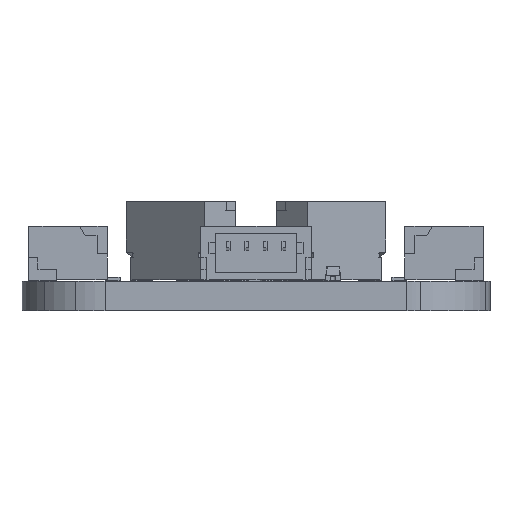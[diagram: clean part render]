
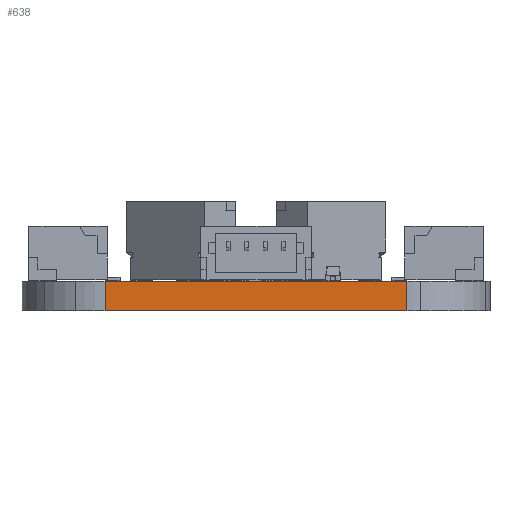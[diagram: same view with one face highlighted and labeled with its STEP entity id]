
A CAD part, left-side view. The second image highlights one B-rep face of the part: STEP entity #638.
In plain terms, the highlighted planar face has unit normal (-1, 0, 0).
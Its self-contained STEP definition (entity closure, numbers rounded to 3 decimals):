
#188 = VERTEX_POINT('',#189);
#189 = CARTESIAN_POINT('',(0.,4.5,1.606));
#196 = EDGE_CURVE('',#197,#188,#199,.T.);
#197 = VERTEX_POINT('',#198);
#198 = CARTESIAN_POINT('',(0.,4.5,0.));
#199 = LINE('',#200,#201);
#200 = CARTESIAN_POINT('',(0.,4.5,0.));
#201 = VECTOR('',#202,1.);
#202 = DIRECTION('',(0.,0.,1.));
#609 = EDGE_CURVE('',#610,#612,#614,.T.);
#610 = VERTEX_POINT('',#611);
#611 = CARTESIAN_POINT('',(0.,20.86,0.));
#612 = VERTEX_POINT('',#613);
#613 = CARTESIAN_POINT('',(0.,20.86,1.606));
#614 = LINE('',#615,#616);
#615 = CARTESIAN_POINT('',(0.,20.86,0.));
#616 = VECTOR('',#617,1.);
#617 = DIRECTION('',(0.,0.,1.));
#638 = ADVANCED_FACE('',(#639),#655,.T.);
#639 = FACE_BOUND('',#640,.T.);
#640 = EDGE_LOOP('',(#641,#642,#648,#649));
#641 = ORIENTED_EDGE('',*,*,#196,.T.);
#642 = ORIENTED_EDGE('',*,*,#643,.T.);
#643 = EDGE_CURVE('',#188,#612,#644,.T.);
#644 = LINE('',#645,#646);
#645 = CARTESIAN_POINT('',(0.,4.5,1.606));
#646 = VECTOR('',#647,1.);
#647 = DIRECTION('',(0.,1.,0.));
#648 = ORIENTED_EDGE('',*,*,#609,.F.);
#649 = ORIENTED_EDGE('',*,*,#650,.F.);
#650 = EDGE_CURVE('',#197,#610,#651,.T.);
#651 = LINE('',#652,#653);
#652 = CARTESIAN_POINT('',(0.,4.5,0.));
#653 = VECTOR('',#654,1.);
#654 = DIRECTION('',(0.,1.,0.));
#655 = PLANE('',#656);
#656 = AXIS2_PLACEMENT_3D('',#657,#658,#659);
#657 = CARTESIAN_POINT('',(0.,4.5,0.));
#658 = DIRECTION('',(-1.,0.,0.));
#659 = DIRECTION('',(0.,1.,0.));
